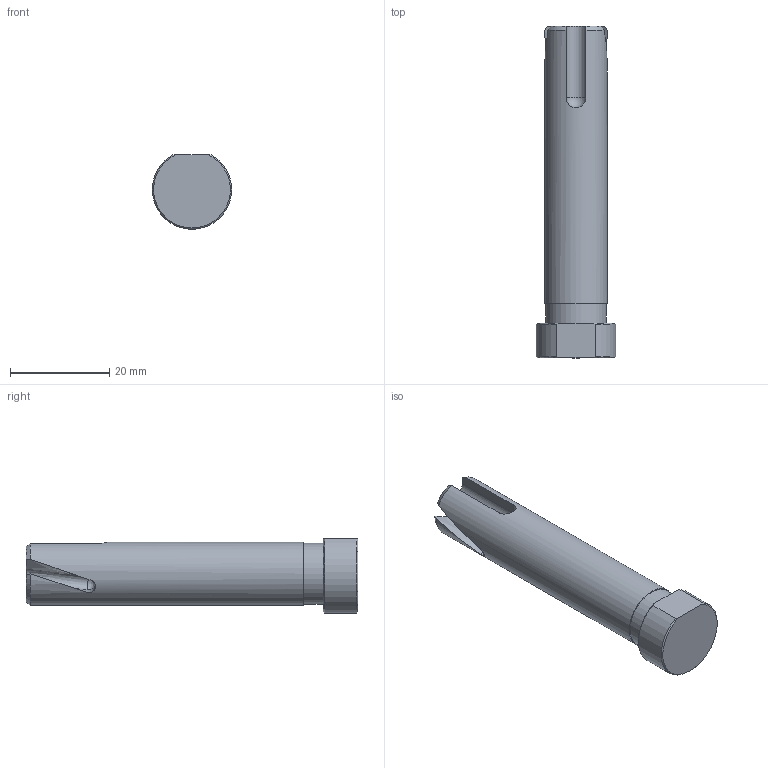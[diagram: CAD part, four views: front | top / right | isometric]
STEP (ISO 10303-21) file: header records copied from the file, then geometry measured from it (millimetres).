
FILE_DESCRIPTION (( 'STEP AP214' ), '1' );
FILE_NAME ('P1-2.60.2-120.STEP', '2023-03-14T08:37:25', ( '' ), ( '' ), 'SwSTEP 2.0', 'SolidWorks 2022', '' );
FILE_SCHEMA (( 'AUTOMOTIVE_DESIGN' ));
Length unit declared in the file: millimetre
Products named in the file (1): P1-2.60.2-120
Bounding box: 15.98 x 67 x 14.97 mm (x, y, z)
Volume: 8312.1 mm3; surface area: 3447 mm2
Topology: 1 solids, 1 shells, 28 faces, 80 edges, 55 vertices
Faces by surface type: plane 9, bspline 8, cylinder 5, cone 5, sphere 1
Full cylindrical faces by diameter (mm): 12.3 x1, 12.7 x1
Entity records: 3378 total; most frequent: CARTESIAN_POINT 2722, ORIENTED_EDGE 150, DIRECTION 94, EDGE_CURVE 75, VERTEX_POINT 53, B_SPLINE_CURVE_WITH_KNOTS 43, AXIS2_PLACEMENT_3D 41, EDGE_LOOP 32
